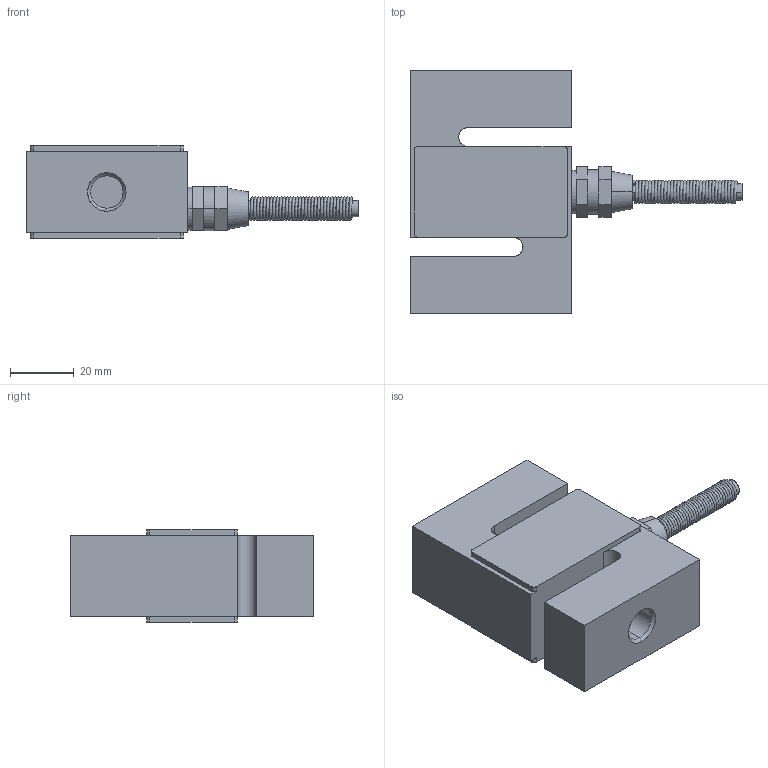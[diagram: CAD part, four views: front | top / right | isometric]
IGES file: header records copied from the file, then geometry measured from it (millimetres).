
Start section: SolidWorks IGES file using analytic representation for surfaces
Global section: file name: O:\16-Entwicklung\Projekte\03_Kraftsensoren\0229_KM1502\01_Mechanik & Gehäuse\01_Solid Works\01_Outline 3D files\3D_KM1502-5KN.IGS; native system: SolidWorks 2012; preprocessor: SolidWorks 2012; author: AndreB; date: 140123.164759; units: millimetre
Bounding box: 104.3 x 76.5 x 29 mm (x, y, z)
Surface area: 21523.4 mm2 (no closed solid volume)
Topology: 0 solids, 0 shells, 79 faces, 972 edges, 972 vertices
Faces by surface type: bspline 52, revolution 27
